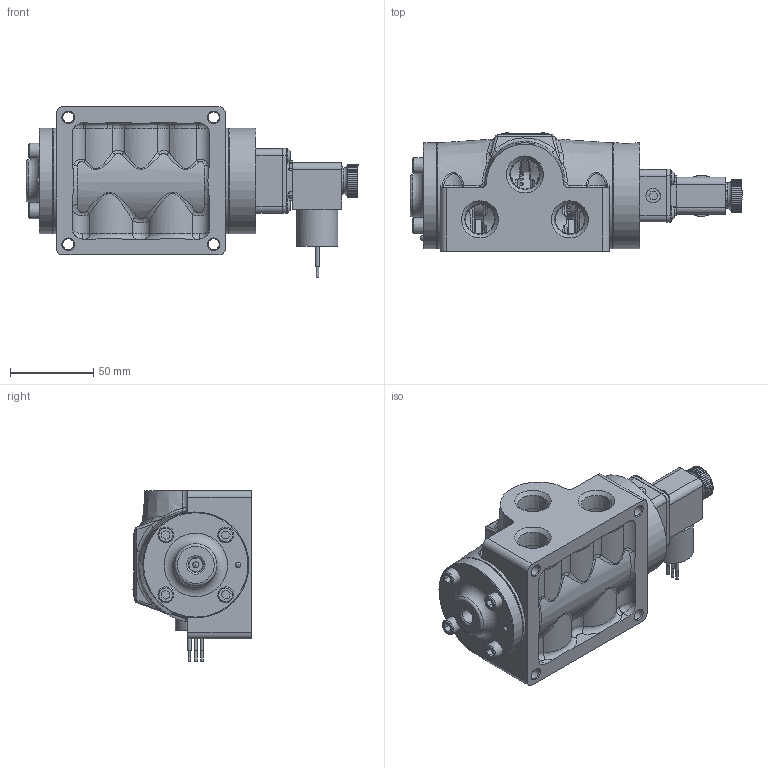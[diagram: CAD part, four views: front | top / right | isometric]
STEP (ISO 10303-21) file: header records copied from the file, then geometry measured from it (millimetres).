
FILE_DESCRIPTION(/* description */ (''),/* implementation_level */ '2;1');
FILE_NAME(/* name */ 'D:\Website Files\stp\Valves\Standard\ESR\ESR4JLZ.stp',/* time_stamp */ '2019-02-11T09:09:33-05:00',/* author */ ('RMcKenna'),/* organization */ (''),/* preprocessor_version */ 'ST-DEVELOPER v17',/* originating_system */ 'Autodesk Inventor 2018',/* authorisation */ '');
FILE_SCHEMA (('AUTOMOTIVE_DESIGN { 1 0 10303 214 3 1 1 }'));
Products named in the file (1): Part70
Bounding box: 199.39 x 71.2 x 102.24 mm (x, y, z)
Volume: 525958.4 mm3; surface area: 131034.2 mm2
Topology: 2 solids, 35 shells, 2360 faces, 5884 edges, 3728 vertices
Faces by surface type: plane 922, cylinder 580, bspline 347, cone 324, torus 164, sphere 23
Full cylindrical faces by diameter (mm): 1.3 x1, 1.397 x1, 1.5 x1, 1.524 x3, 2.032 x7, 2.07 x2, 2.261 x2, 2.35 x4, 2.388 x1, 2.778 x2, 2.8 x1, 2.819 x1, 3 x4, 3.048 x5, 3.175 x2, 3.4 x1, 3.683 x5, 3.962 x2, 4.191 x2, 4.826 x4, 4.953 x1, 4.978 x8, 5.15 x4, 5.156 x4, 5.5 x1, 6.35 x8, 6.553 x1, 6.629 x4, 6.747 x4, 7.137 x6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
Entity records: 86682 total; most frequent: CARTESIAN_POINT 30139, ORIENTED_EDGE 11676, DIRECTION 10494, EDGE_CURVE 5838, AXIS2_PLACEMENT_3D 3952, VERTEX_POINT 3728, EDGE_LOOP 2610, LINE 2590
